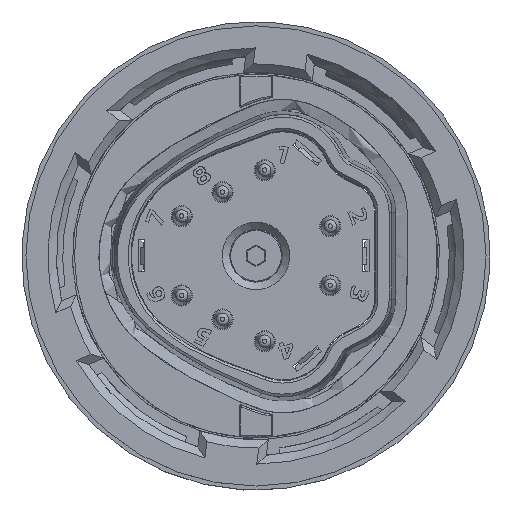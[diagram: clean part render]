
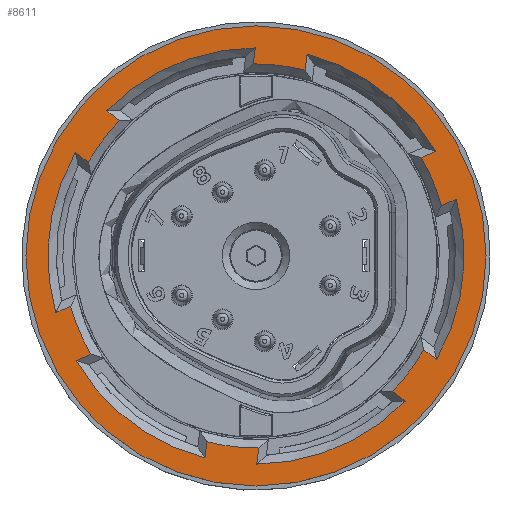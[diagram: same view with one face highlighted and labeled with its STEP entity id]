
A CAD part, top view. The second image highlights one B-rep face of the part: STEP entity #8611.
In plain terms, the highlighted planar face has unit normal (0, 0, 1).
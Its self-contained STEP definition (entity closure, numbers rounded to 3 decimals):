
#533=PLANE('',#35381);
#4186=LINE('',#55753,#6535);
#4187=LINE('',#55755,#6536);
#4192=LINE('',#55769,#6541);
#4193=LINE('',#55771,#6542);
#4198=LINE('',#55785,#6547);
#4199=LINE('',#55787,#6548);
#4204=LINE('',#55801,#6553);
#4205=LINE('',#55803,#6554);
#4210=LINE('',#55817,#6559);
#4211=LINE('',#55819,#6560);
#4216=LINE('',#55833,#6565);
#4217=LINE('',#55837,#6566);
#6535=VECTOR('',#40148,1.);
#6536=VECTOR('',#40151,1.);
#6541=VECTOR('',#40166,1.);
#6542=VECTOR('',#40169,1.);
#6547=VECTOR('',#40184,1.);
#6548=VECTOR('',#40187,1.);
#6553=VECTOR('',#40202,1.);
#6554=VECTOR('',#40205,1.);
#6559=VECTOR('',#40220,1.);
#6560=VECTOR('',#40223,1.);
#6565=VECTOR('',#40238,1.);
#6566=VECTOR('',#40243,1.);
#8611=ADVANCED_FACE('',(#11690,#11691),#533,.T.);
#11690=FACE_BOUND('',#12640,.T.);
#11691=FACE_BOUND('',#12641,.T.);
#12640=EDGE_LOOP('',(#16655));
#12641=EDGE_LOOP('',(#16656,#16657,#16658,#16659,#16660,#16661,#16662,#16663,
#16664,#16665,#16666,#16667,#16668,#16669,#16670,#16671,#16672,#16673,#16674,
#16675,#16676,#16677,#16678,#16679));
#16655=ORIENTED_EDGE('',*,*,#29732,.F.);
#16656=ORIENTED_EDGE('',*,*,#29722,.T.);
#16657=ORIENTED_EDGE('',*,*,#28805,.T.);
#16658=ORIENTED_EDGE('',*,*,#29723,.T.);
#16659=ORIENTED_EDGE('',*,*,#29664,.T.);
#16660=ORIENTED_EDGE('',*,*,#29731,.T.);
#16661=ORIENTED_EDGE('',*,*,#28785,.T.);
#16662=ORIENTED_EDGE('',*,*,#29733,.T.);
#16663=ORIENTED_EDGE('',*,*,#29684,.T.);
#16664=ORIENTED_EDGE('',*,*,#29686,.T.);
#16665=ORIENTED_EDGE('',*,*,#28789,.T.);
#16666=ORIENTED_EDGE('',*,*,#29687,.T.);
#16667=ORIENTED_EDGE('',*,*,#29680,.T.);
#16668=ORIENTED_EDGE('',*,*,#29695,.T.);
#16669=ORIENTED_EDGE('',*,*,#28793,.T.);
#16670=ORIENTED_EDGE('',*,*,#29696,.T.);
#16671=ORIENTED_EDGE('',*,*,#29676,.T.);
#16672=ORIENTED_EDGE('',*,*,#29704,.T.);
#16673=ORIENTED_EDGE('',*,*,#28797,.T.);
#16674=ORIENTED_EDGE('',*,*,#29705,.T.);
#16675=ORIENTED_EDGE('',*,*,#29672,.T.);
#16676=ORIENTED_EDGE('',*,*,#29713,.T.);
#16677=ORIENTED_EDGE('',*,*,#28801,.T.);
#16678=ORIENTED_EDGE('',*,*,#29714,.T.);
#16679=ORIENTED_EDGE('',*,*,#29668,.T.);
#25443=VERTEX_POINT('',#48642);
#25445=VERTEX_POINT('',#48645);
#25447=VERTEX_POINT('',#48657);
#25449=VERTEX_POINT('',#48660);
#25451=VERTEX_POINT('',#48672);
#25453=VERTEX_POINT('',#48675);
#25455=VERTEX_POINT('',#48687);
#25457=VERTEX_POINT('',#48690);
#25459=VERTEX_POINT('',#48702);
#25461=VERTEX_POINT('',#48705);
#25463=VERTEX_POINT('',#48717);
#25465=VERTEX_POINT('',#48720);
#26082=VERTEX_POINT('',#55649);
#26084=VERTEX_POINT('',#55659);
#26086=VERTEX_POINT('',#55667);
#26088=VERTEX_POINT('',#55677);
#26090=VERTEX_POINT('',#55685);
#26092=VERTEX_POINT('',#55695);
#26094=VERTEX_POINT('',#55703);
#26096=VERTEX_POINT('',#55713);
#26098=VERTEX_POINT('',#55721);
#26100=VERTEX_POINT('',#55731);
#26102=VERTEX_POINT('',#55739);
#26104=VERTEX_POINT('',#55749);
#26125=VERTEX_POINT('',#55836);
#28785=EDGE_CURVE('',#25445,#25443,#33398,.T.);
#28789=EDGE_CURVE('',#25449,#25447,#33400,.T.);
#28793=EDGE_CURVE('',#25453,#25451,#33402,.T.);
#28797=EDGE_CURVE('',#25457,#25455,#33404,.T.);
#28801=EDGE_CURVE('',#25461,#25459,#33406,.T.);
#28805=EDGE_CURVE('',#25465,#25463,#33408,.T.);
#29664=EDGE_CURVE('',#26082,#26084,#33683,.T.);
#29668=EDGE_CURVE('',#26086,#26088,#33684,.T.);
#29672=EDGE_CURVE('',#26090,#26092,#33685,.T.);
#29676=EDGE_CURVE('',#26094,#26096,#33686,.T.);
#29680=EDGE_CURVE('',#26098,#26100,#33687,.T.);
#29684=EDGE_CURVE('',#26102,#26104,#33688,.T.);
#29686=EDGE_CURVE('',#26104,#25449,#4186,.T.);
#29687=EDGE_CURVE('',#25447,#26098,#4187,.T.);
#29695=EDGE_CURVE('',#26100,#25453,#4192,.T.);
#29696=EDGE_CURVE('',#25451,#26094,#4193,.T.);
#29704=EDGE_CURVE('',#26096,#25457,#4198,.T.);
#29705=EDGE_CURVE('',#25455,#26090,#4199,.T.);
#29713=EDGE_CURVE('',#26092,#25461,#4204,.T.);
#29714=EDGE_CURVE('',#25459,#26086,#4205,.T.);
#29722=EDGE_CURVE('',#26088,#25465,#4210,.T.);
#29723=EDGE_CURVE('',#25463,#26082,#4211,.T.);
#29731=EDGE_CURVE('',#26084,#25445,#4216,.T.);
#29732=EDGE_CURVE('',#26125,#26125,#33694,.T.);
#29733=EDGE_CURVE('',#25443,#26102,#4217,.T.);
#33398=CIRCLE('',#34837,24.65);
#33400=CIRCLE('',#34840,24.65);
#33402=CIRCLE('',#34843,24.65);
#33404=CIRCLE('',#34846,24.65);
#33406=CIRCLE('',#34849,24.65);
#33408=CIRCLE('',#34852,24.65);
#33683=CIRCLE('',#35337,22.75);
#33684=CIRCLE('',#35339,22.75);
#33685=CIRCLE('',#35341,22.75);
#33686=CIRCLE('',#35343,22.75);
#33687=CIRCLE('',#35345,22.75);
#33688=CIRCLE('',#35347,22.75);
#33694=CIRCLE('',#35380,27.25);
#34837=AXIS2_PLACEMENT_3D('',#48644,#38901,#38902);
#34840=AXIS2_PLACEMENT_3D('',#48659,#38907,#38908);
#34843=AXIS2_PLACEMENT_3D('',#48674,#38913,#38914);
#34846=AXIS2_PLACEMENT_3D('',#48689,#38919,#38920);
#34849=AXIS2_PLACEMENT_3D('',#48704,#38925,#38926);
#34852=AXIS2_PLACEMENT_3D('',#48719,#38931,#38932);
#35337=AXIS2_PLACEMENT_3D('',#55660,#40123,#40124);
#35339=AXIS2_PLACEMENT_3D('',#55678,#40127,#40128);
#35341=AXIS2_PLACEMENT_3D('',#55696,#40131,#40132);
#35343=AXIS2_PLACEMENT_3D('',#55714,#40135,#40136);
#35345=AXIS2_PLACEMENT_3D('',#55732,#40139,#40140);
#35347=AXIS2_PLACEMENT_3D('',#55750,#40143,#40144);
#35380=AXIS2_PLACEMENT_3D('',#55835,#40241,#40242);
#35381=AXIS2_PLACEMENT_3D('',#55838,#40244,#40245);
#38901=DIRECTION('',(0.,0.,-1.));
#38902=DIRECTION('',(1.,0.,0.));
#38907=DIRECTION('',(0.,0.,-1.));
#38908=DIRECTION('',(1.,0.,0.));
#38913=DIRECTION('',(0.,0.,-1.));
#38914=DIRECTION('',(1.,0.,0.));
#38919=DIRECTION('',(0.,0.,-1.));
#38920=DIRECTION('',(1.,0.,0.));
#38925=DIRECTION('',(0.,0.,-1.));
#38926=DIRECTION('',(1.,0.,0.));
#38931=DIRECTION('',(0.,0.,-1.));
#38932=DIRECTION('',(1.,0.,0.));
#40123=DIRECTION('',(0.,0.,-1.));
#40124=DIRECTION('',(0.5,0.866,0.));
#40127=DIRECTION('',(0.,0.,-1.));
#40128=DIRECTION('',(0.5,0.866,0.));
#40131=DIRECTION('',(0.,0.,-1.));
#40132=DIRECTION('',(0.5,0.866,0.));
#40135=DIRECTION('',(0.,0.,-1.));
#40136=DIRECTION('',(0.5,0.866,0.));
#40139=DIRECTION('',(0.,0.,-1.));
#40140=DIRECTION('',(0.5,0.866,0.));
#40143=DIRECTION('',(0.,0.,-1.));
#40144=DIRECTION('',(0.5,0.866,0.));
#40148=DIRECTION('',(-0.799,0.602,0.));
#40151=DIRECTION('',(-0.122,-0.993,0.));
#40166=DIRECTION('',(0.122,0.993,0.));
#40169=DIRECTION('',(-0.921,-0.391,0.));
#40184=DIRECTION('',(0.921,0.391,0.));
#40187=DIRECTION('',(-0.799,0.602,0.));
#40202=DIRECTION('',(0.799,-0.602,0.));
#40205=DIRECTION('',(0.122,0.993,0.));
#40220=DIRECTION('',(-0.122,-0.993,0.));
#40223=DIRECTION('',(0.921,0.391,0.));
#40238=DIRECTION('',(-0.921,-0.391,0.));
#40241=DIRECTION('',(0.,0.,-1.));
#40242=DIRECTION('',(1.,0.,0.));
#40243=DIRECTION('',(0.799,-0.602,0.));
#40244=DIRECTION('',(0.,0.,1.));
#40245=DIRECTION('',(-0.927,0.375,0.));
#48642=CARTESIAN_POINT('',(-21.389,12.253,-23.5));
#48644=CARTESIAN_POINT('',(0.,0.,-23.5));
#48645=CARTESIAN_POINT('',(-23.718,-6.715,-23.5));
#48657=CARTESIAN_POINT('',(-0.083,24.65,-23.5));
#48659=CARTESIAN_POINT('',(0.,0.,-23.5));
#48660=CARTESIAN_POINT('',(-17.674,17.183,-23.5));
#48672=CARTESIAN_POINT('',(21.306,12.397,-23.5));
#48674=CARTESIAN_POINT('',(0.,0.,-23.5));
#48675=CARTESIAN_POINT('',(6.044,23.898,-23.5));
#48687=CARTESIAN_POINT('',(21.389,-12.253,-23.5));
#48689=CARTESIAN_POINT('',(0.,0.,-23.5));
#48690=CARTESIAN_POINT('',(23.718,6.715,-23.5));
#48702=CARTESIAN_POINT('',(0.083,-24.65,-23.5));
#48704=CARTESIAN_POINT('',(0.,0.,-23.5));
#48705=CARTESIAN_POINT('',(17.674,-17.183,-23.5));
#48717=CARTESIAN_POINT('',(-21.306,-12.397,-23.5));
#48719=CARTESIAN_POINT('',(0.,0.,-23.5));
#48720=CARTESIAN_POINT('',(-6.044,-23.898,-23.5));
#55649=CARTESIAN_POINT('',(-19.542,-11.648,-23.5));
#55659=CARTESIAN_POINT('',(-21.954,-5.966,-23.5));
#55660=CARTESIAN_POINT('',(0.,0.,-23.5));
#55667=CARTESIAN_POINT('',(0.317,-22.748,-23.5));
#55677=CARTESIAN_POINT('',(-5.81,-21.996,-23.5));
#55678=CARTESIAN_POINT('',(0.,0.,-23.5));
#55685=CARTESIAN_POINT('',(19.858,-11.1,-23.5));
#55695=CARTESIAN_POINT('',(16.144,-16.03,-23.5));
#55696=CARTESIAN_POINT('',(0.,0.,-23.5));
#55703=CARTESIAN_POINT('',(19.542,11.648,-23.5));
#55713=CARTESIAN_POINT('',(21.954,5.966,-23.5));
#55714=CARTESIAN_POINT('',(0.,0.,-23.5));
#55721=CARTESIAN_POINT('',(-0.317,22.748,-23.5));
#55731=CARTESIAN_POINT('',(5.81,21.996,-23.5));
#55732=CARTESIAN_POINT('',(0.,0.,-23.5));
#55739=CARTESIAN_POINT('',(-19.858,11.1,-23.5));
#55749=CARTESIAN_POINT('',(-16.144,16.03,-23.5));
#55750=CARTESIAN_POINT('',(0.,0.,-23.5));
#55753=CARTESIAN_POINT('',(1.857,2.465,-23.5));
#55755=CARTESIAN_POINT('',(-3.063,0.376,-23.5));
#55769=CARTESIAN_POINT('',(3.063,-0.376,-23.5));
#55771=CARTESIAN_POINT('',(-1.206,2.841,-23.5));
#55785=CARTESIAN_POINT('',(1.206,-2.841,-23.5));
#55787=CARTESIAN_POINT('',(1.857,2.465,-23.5));
#55801=CARTESIAN_POINT('',(-1.857,-2.465,-23.5));
#55803=CARTESIAN_POINT('',(3.063,-0.376,-23.5));
#55817=CARTESIAN_POINT('',(-3.063,0.376,-23.5));
#55819=CARTESIAN_POINT('',(1.206,-2.841,-23.5));
#55833=CARTESIAN_POINT('',(-1.206,2.841,-23.5));
#55835=CARTESIAN_POINT('',(0.,0.,-23.5));
#55836=CARTESIAN_POINT('',(27.25,0.,-23.5));
#55837=CARTESIAN_POINT('',(-1.857,-2.465,-23.5));
#55838=CARTESIAN_POINT('',(0.,0.,-23.5));
